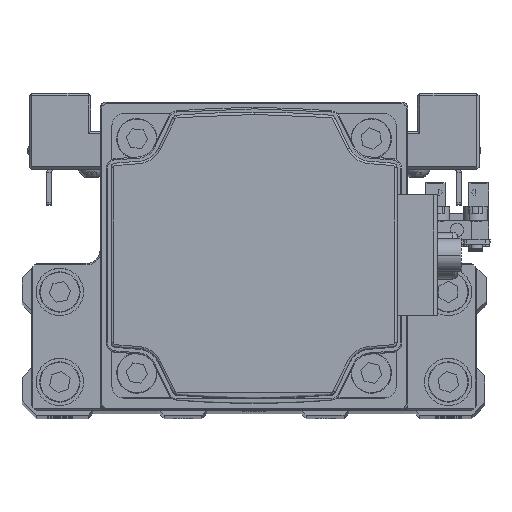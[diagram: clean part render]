
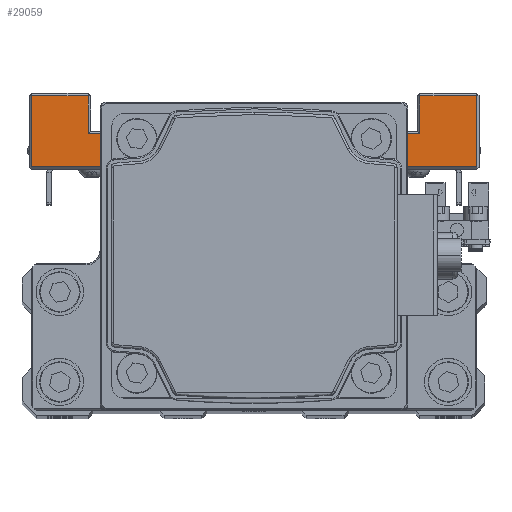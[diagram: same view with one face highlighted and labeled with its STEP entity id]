
A CAD part, top view. The second image highlights one B-rep face of the part: STEP entity #29059.
In plain terms, the highlighted planar face has unit normal (0, 0, 1) as drawn and (1, 0, 0) by its records, which use the part's own axes.
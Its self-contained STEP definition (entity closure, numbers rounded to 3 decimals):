
#314 = DIRECTION ( 'NONE',  ( 0., -1., 0. ) ) ;
#609 = DIRECTION ( 'NONE',  ( 0., 0., 1. ) ) ;
#1331 = VERTEX_POINT ( 'NONE', #12013 ) ;
#2004 = DIRECTION ( 'NONE',  ( 0., 0., 1. ) ) ;
#2513 = CARTESIAN_POINT ( 'NONE',  ( 47., -7.5, -20. ) ) ;
#3595 = CARTESIAN_POINT ( 'NONE',  ( 47., 8., -20. ) ) ;
#3628 = PLANE ( 'NONE',  #19855 ) ;
#3954 = CARTESIAN_POINT ( 'NONE',  ( 47., 7.5, -20. ) ) ;
#4545 = DIRECTION ( 'NONE',  ( 0., 0., -1. ) ) ;
#4789 = EDGE_CURVE ( 'NONE', #1331, #9629, #7784, .T. ) ;
#5721 = ORIENTED_EDGE ( 'NONE', *, *, #19610, .T. ) ;
#6232 = DIRECTION ( 'NONE',  ( 0., 0., 1. ) ) ;
#6380 = EDGE_CURVE ( 'NONE', #23533, #34477, #21543, .T. ) ;
#6381 = ORIENTED_EDGE ( 'NONE', *, *, #12218, .T. ) ;
#6514 = CARTESIAN_POINT ( 'NONE',  ( 47., 8., 20. ) ) ;
#7209 = DIRECTION ( 'NONE',  ( 0., 0., -1. ) ) ;
#7484 = ORIENTED_EDGE ( 'NONE', *, *, #35062, .T. ) ;
#7784 = LINE ( 'NONE', #20078, #30194 ) ;
#8665 = CARTESIAN_POINT ( 'NONE',  ( 47., 23., -47. ) ) ;
#8915 = DIRECTION ( 'NONE',  ( 0., 0., -1. ) ) ;
#9629 = VERTEX_POINT ( 'NONE', #15723 ) ;
#9827 = VECTOR ( 'NONE', #7209, 1000. ) ;
#10428 = ORIENTED_EDGE ( 'NONE', *, *, #37245, .T. ) ;
#10602 = DIRECTION ( 'NONE',  ( 0., -1., 0. ) ) ;
#10964 = EDGE_LOOP ( 'NONE', ( #38552, #30635, #20143, #17620, #5721, #29108, #6381, #25294, #11797, #10428, #7484, #29040 ) ) ;
#11309 = CARTESIAN_POINT ( 'NONE',  ( 47., 7.5, -47. ) ) ;
#11402 = DIRECTION ( 'NONE',  ( 0., 1., 0. ) ) ;
#11797 = ORIENTED_EDGE ( 'NONE', *, *, #14802, .T. ) ;
#12013 = CARTESIAN_POINT ( 'NONE',  ( 47., 15., -35. ) ) ;
#12040 = EDGE_CURVE ( 'NONE', #26506, #16283, #22529, .T. ) ;
#12218 = EDGE_CURVE ( 'NONE', #9629, #35354, #26705, .T. ) ;
#12566 = VECTOR ( 'NONE', #4545, 1000. ) ;
#13912 = LINE ( 'NONE', #26205, #38359 ) ;
#14802 = EDGE_CURVE ( 'NONE', #20737, #17127, #25923, .T. ) ;
#14956 = LINE ( 'NONE', #36528, #21045 ) ;
#15665 = LINE ( 'NONE', #27937, #27433 ) ;
#15723 = CARTESIAN_POINT ( 'NONE',  ( 47., 15., 35. ) ) ;
#15948 = CARTESIAN_POINT ( 'NONE',  ( 47., 7.5, -20. ) ) ;
#16269 = DIRECTION ( 'NONE',  ( 0., -1., 0. ) ) ;
#16283 = VERTEX_POINT ( 'NONE', #2513 ) ;
#16847 = VERTEX_POINT ( 'NONE', #6514 ) ;
#17082 = EDGE_CURVE ( 'NONE', #35354, #20737, #17363, .T. ) ;
#17127 = VERTEX_POINT ( 'NONE', #20772 ) ;
#17363 = LINE ( 'NONE', #29638, #38928 ) ;
#17620 = ORIENTED_EDGE ( 'NONE', *, *, #6380, .T. ) ;
#19610 = EDGE_CURVE ( 'NONE', #34477, #1331, #13912, .T. ) ;
#19761 = VECTOR ( 'NONE', #16269, 1000. ) ;
#19855 = AXIS2_PLACEMENT_3D ( 'NONE', #15948, #28229, #609 ) ;
#19886 = LINE ( 'NONE', #32194, #12566 ) ;
#20078 = CARTESIAN_POINT ( 'NONE',  ( 47., 15., -20. ) ) ;
#20143 = ORIENTED_EDGE ( 'NONE', *, *, #30057, .T. ) ;
#20384 = EDGE_CURVE ( 'NONE', #36557, #16283, #31600, .T. ) ;
#20737 = VERTEX_POINT ( 'NONE', #25820 ) ;
#20772 = CARTESIAN_POINT ( 'NONE',  ( 47., 8., 47. ) ) ;
#21045 = VECTOR ( 'NONE', #8915, 1000. ) ;
#21340 = CARTESIAN_POINT ( 'NONE',  ( 47., -7.5, 20. ) ) ;
#21543 = LINE ( 'NONE', #33855, #29635 ) ;
#21604 = CARTESIAN_POINT ( 'NONE',  ( 47., 23., -35. ) ) ;
#22529 = LINE ( 'NONE', #34823, #9827 ) ;
#23127 = VECTOR ( 'NONE', #23607, 1000. ) ;
#23533 = VERTEX_POINT ( 'NONE', #8665 ) ;
#23607 = DIRECTION ( 'NONE',  ( 0., 1., 0. ) ) ;
#25294 = ORIENTED_EDGE ( 'NONE', *, *, #17082, .T. ) ;
#25412 = CARTESIAN_POINT ( 'NONE',  ( 47., 8., -47. ) ) ;
#25820 = CARTESIAN_POINT ( 'NONE',  ( 47., 23., 47. ) ) ;
#25923 = LINE ( 'NONE', #38216, #38943 ) ;
#26205 = CARTESIAN_POINT ( 'NONE',  ( 47., 7.5, -35. ) ) ;
#26506 = VERTEX_POINT ( 'NONE', #21340 ) ;
#26550 = VECTOR ( 'NONE', #11402, 1000. ) ;
#26705 = LINE ( 'NONE', #39007, #26550 ) ;
#27433 = VECTOR ( 'NONE', #314, 1000. ) ;
#27937 = CARTESIAN_POINT ( 'NONE',  ( 47., 7.5, 20. ) ) ;
#28229 = DIRECTION ( 'NONE',  ( -1., 0., 0. ) ) ;
#29040 = ORIENTED_EDGE ( 'NONE', *, *, #12040, .T. ) ;
#29059 = ADVANCED_FACE ( 'NONE', ( #31251 ), #3628, .F. ) ;
#29108 = ORIENTED_EDGE ( 'NONE', *, *, #4789, .T. ) ;
#29635 = VECTOR ( 'NONE', #6232, 1000. ) ;
#29638 = CARTESIAN_POINT ( 'NONE',  ( 47., 23., -20. ) ) ;
#30057 = EDGE_CURVE ( 'NONE', #30323, #23533, #38917, .T. ) ;
#30194 = VECTOR ( 'NONE', #32382, 1000. ) ;
#30323 = VERTEX_POINT ( 'NONE', #25412 ) ;
#30635 = ORIENTED_EDGE ( 'NONE', *, *, #38357, .T. ) ;
#31251 = FACE_OUTER_BOUND ( 'NONE', #10964, .T. ) ;
#31600 = LINE ( 'NONE', #3954, #19761 ) ;
#32194 = CARTESIAN_POINT ( 'NONE',  ( 47., 8., -47. ) ) ;
#32382 = DIRECTION ( 'NONE',  ( 0., 0., 1. ) ) ;
#33855 = CARTESIAN_POINT ( 'NONE',  ( 47., 23., -20. ) ) ;
#34477 = VERTEX_POINT ( 'NONE', #21604 ) ;
#34823 = CARTESIAN_POINT ( 'NONE',  ( 47., -7.5, -20. ) ) ;
#35062 = EDGE_CURVE ( 'NONE', #16847, #26506, #15665, .T. ) ;
#35354 = VERTEX_POINT ( 'NONE', #38977 ) ;
#36528 = CARTESIAN_POINT ( 'NONE',  ( 47., 8., 20. ) ) ;
#36557 = VERTEX_POINT ( 'NONE', #3595 ) ;
#37245 = EDGE_CURVE ( 'NONE', #17127, #16847, #14956, .T. ) ;
#38216 = CARTESIAN_POINT ( 'NONE',  ( 47., 7.5, 47. ) ) ;
#38357 = EDGE_CURVE ( 'NONE', #36557, #30323, #19886, .T. ) ;
#38359 = VECTOR ( 'NONE', #38498, 1000. ) ;
#38498 = DIRECTION ( 'NONE',  ( 0., -1., 0. ) ) ;
#38552 = ORIENTED_EDGE ( 'NONE', *, *, #20384, .F. ) ;
#38917 = LINE ( 'NONE', #11309, #23127 ) ;
#38928 = VECTOR ( 'NONE', #2004, 1000. ) ;
#38943 = VECTOR ( 'NONE', #10602, 1000. ) ;
#38977 = CARTESIAN_POINT ( 'NONE',  ( 47., 23., 35. ) ) ;
#39007 = CARTESIAN_POINT ( 'NONE',  ( 47., 7.5, 35. ) ) ;
